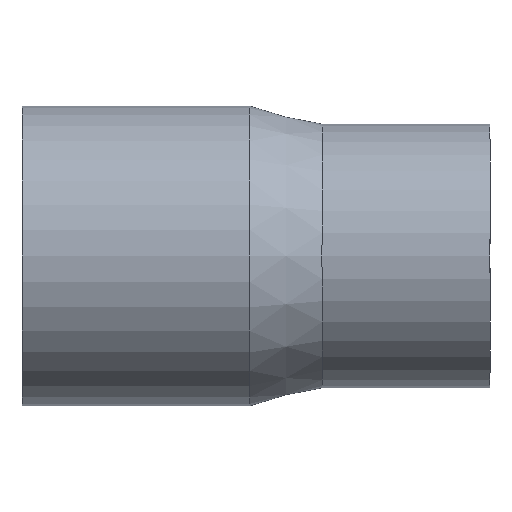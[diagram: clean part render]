
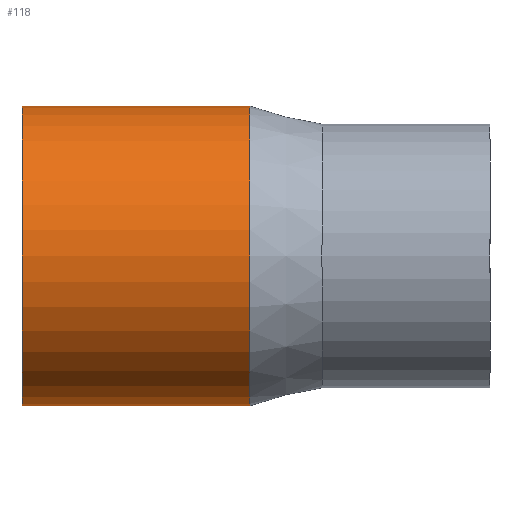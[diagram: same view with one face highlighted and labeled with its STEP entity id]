
A CAD part, front view. The second image highlights one B-rep face of the part: STEP entity #118.
In plain terms, the highlighted cylindrical face has radius 12.5 mm (diameter 25 mm), a full revolution.
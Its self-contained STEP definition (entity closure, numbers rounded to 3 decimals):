
#18=CYLINDRICAL_SURFACE('',#134,12.5);
#25=FACE_BOUND('',#49,.T.);
#35=FACE_OUTER_BOUND('',#48,.T.);
#48=EDGE_LOOP('',(#98));
#49=EDGE_LOOP('',(#99));
#65=CIRCLE('',#133,12.5);
#66=CIRCLE('',#135,12.5);
#75=VERTEX_POINT('',#199);
#76=VERTEX_POINT('',#202);
#85=EDGE_CURVE('',#75,#75,#65,.T.);
#86=EDGE_CURVE('',#76,#76,#66,.T.);
#98=ORIENTED_EDGE('',*,*,#85,.T.);
#99=ORIENTED_EDGE('',*,*,#86,.F.);
#118=ADVANCED_FACE('',(#35,#25),#18,.T.);
#133=AXIS2_PLACEMENT_3D('',#200,#161,#162);
#134=AXIS2_PLACEMENT_3D('',#201,#163,#164);
#135=AXIS2_PLACEMENT_3D('',#203,#165,#166);
#161=DIRECTION('center_axis',(-1.,0.,0.));
#162=DIRECTION('ref_axis',(0.,0.,1.));
#163=DIRECTION('center_axis',(-1.,0.,0.));
#164=DIRECTION('ref_axis',(0.,-1.,0.));
#165=DIRECTION('center_axis',(-1.,0.,0.));
#166=DIRECTION('ref_axis',(0.,0.,1.));
#199=CARTESIAN_POINT('',(-0.5,-12.5,0.));
#200=CARTESIAN_POINT('Origin',(-0.5,0.,
0.));
#201=CARTESIAN_POINT('Origin',(-10.,0.,0.));
#202=CARTESIAN_POINT('',(-19.5,-12.5,0.));
#203=CARTESIAN_POINT('Origin',(-19.5,0.,0.));
